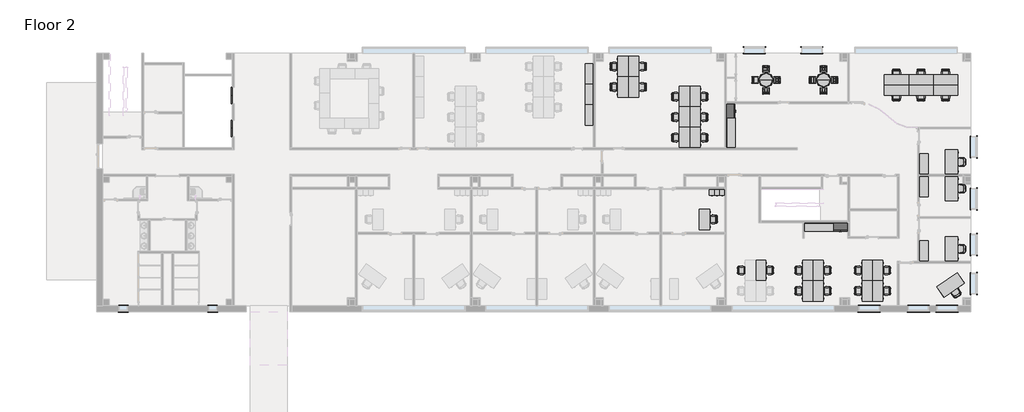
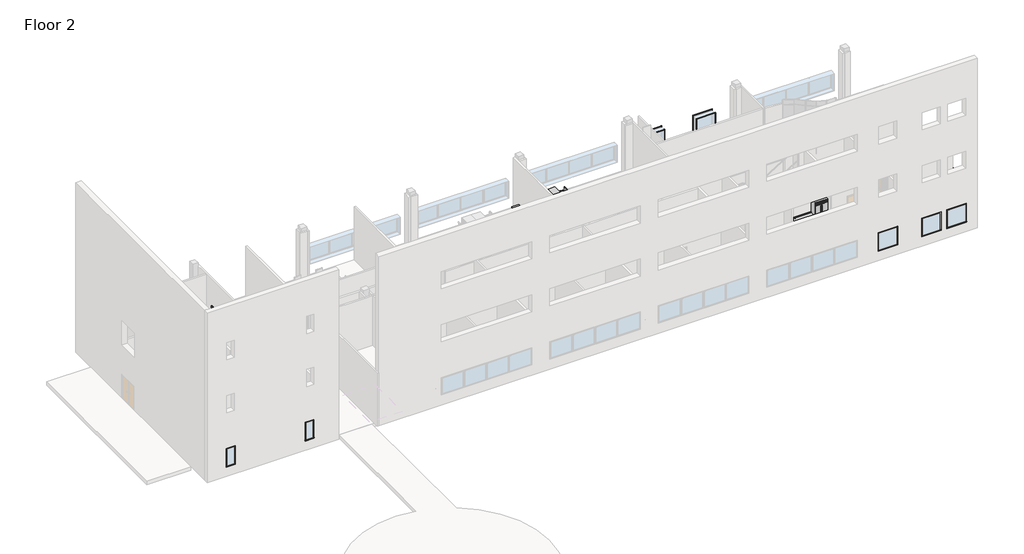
# One storey, part 7 of 7: 86 furniture elements, 26 proxies.
"""IFC4 building model written with IfcOpenShell, lengths in millimetres."""

from ifc_helpers import new_model, si_unit, origin, place, context, project, spatial, transform, mapped, element, save
from components import proxy_ae548678, proxy_0447ab4b, trim_window_exterior_flat_with_sill_05ca63db, trim_window_exterior_flat_with_sill_4912eb0d, trim_window_interior_flat_picture_frame_a1a3bc7c, trim_window_interior_flat_picture_frame_978fd00d, furniture_338da5bd, furniture_48aa8ab9, chair_executive_chair_executive_8d69e98c, chair_executive_chair_executive_a5be4872, chair_stacking_chair_stacking_4df0970f, chair_task_arms_chair_task_arms_fa5a08ef, chair_task_arms_chair_task_arms_3c69ee15, furniture_b725675f, furniture_6bf0da8d, furniture_0f0bb7e9, furniture_a9e97cbc, furniture_f1eb905c, furniture_e30ff25b, furniture_33f25304, furniture_65204735, furniture_a5b052b6, furniture_457a56de, furniture_77f0a01d

model = new_model("IFC4")

# Units and contexts
model_context = context("Model", 3, world=origin())
ifc_project = project(units=[si_unit("LENGTHUNIT", "METRE", prefix="MILLI")], contexts=[model_context])

# Site, building, storey
site = spatial("IfcSite", under=ifc_project)
building = spatial("IfcBuilding", under=site)
storey = spatial("IfcBuildingStorey", under=building, Name="Floor 2", Elevation=5486.4)

# Proxies
placement = place(None, origin())
proxy_shape = proxy_ae548678(model_context)
element("IfcBuildingElementProxy", 1, Name="Elevator-Center : 72\" x 114\" Hospital min.", ObjectType="Elevator-Center : 72\" x 114\" Hospital min.", at=placement, inside=storey, context=model_context, shape_type="MappedRepresentation", body=[
    mapped(proxy_shape, transform((6707.2192024, 51882.5975333, 5486.4), x_axis=(0.0, 1.0, 0.0), y_axis=(-1.0, 0.0, 0.0), z_axis=(0.0, 0.0, 1.0))),
])
element("IfcBuildingElementProxy", 2, Name="Elevator-Center : 72\" x 114\" Hospital min.", ObjectType="Elevator-Center : 72\" x 114\" Hospital min.", at=placement, inside=storey, context=model_context, shape_type="MappedRepresentation", body=[
    mapped(proxy_shape, transform((6707.2192024, 54320.9975333, 5486.4), x_axis=(0.0, 1.0, 0.0), y_axis=(-1.0, 0.0, 0.0), z_axis=(0.0, 0.0, 1.0))),
])
proxy_2_shape = proxy_0447ab4b(model_context)
element("IfcBuildingElementProxy", 3, Name="Refrigerator-Side-by-Side : 42\" Left Side Freezer", ObjectType="Refrigerator-Side-by-Side : 42\" Left Side Freezer", at=placement, inside=storey, context=model_context, shape_type="MappedRepresentation", body=[
    mapped(proxy_2_shape, transform((51838.2567024, 44868.311889, 5486.4), x_axis=(1.0, 0.0, 0.0), y_axis=(0.0, 1.0, 0.0), z_axis=(0.0, 0.0, 1.0))),
])
element("IfcBuildingElementProxy", 4, Name="Refrigerator-Side-by-Side : 42\" Left Side Freezer", ObjectType="Refrigerator-Side-by-Side : 42\" Left Side Freezer", at=placement, inside=storey, context=model_context, shape_type="MappedRepresentation", body=[
    mapped(proxy_2_shape, transform((43251.4692024, 53086.799389, 5486.4), x_axis=(0.0, 1.0, 0.0), y_axis=(-1.0, 0.0, 0.0), z_axis=(0.0, 0.0, 1.0))),
])
trim_window_exterior_flat_with_sill_shape = trim_window_exterior_flat_with_sill_05ca63db(model_context)
element("IfcBuildingElementProxy", 5, Name="Trim-Window-Exterior-Flat : with Sill", ObjectType="Trim-Window-Exterior-Flat : with Sill", at=placement, inside=storey, context=model_context, shape_type="MappedRepresentation", body=[
    mapped(trim_window_exterior_flat_with_sill_shape, transform((61956.9817024, 46544.711889, 7924.8), x_axis=(0.0, 1.0, 0.0), y_axis=(0.0, 0.0, 1.0), z_axis=(1.0, 0.0, 0.0))),
])
element("IfcBuildingElementProxy", 6, Name="Trim-Window-Exterior-Flat : with Sill", ObjectType="Trim-Window-Exterior-Flat : with Sill", at=placement, inside=storey, context=model_context, shape_type="MappedRepresentation", body=[
    mapped(trim_window_exterior_flat_with_sill_shape, transform((61956.9817024, 43141.111889, 7924.8), x_axis=(0.0, 1.0, 0.0), y_axis=(0.0, 0.0, 1.0), z_axis=(1.0, 0.0, 0.0))),
])
element("IfcBuildingElementProxy", 7, Name="Trim-Window-Exterior-Flat : with Sill", ObjectType="Trim-Window-Exterior-Flat : with Sill", at=placement, inside=storey, context=model_context, shape_type="MappedRepresentation", body=[
    mapped(trim_window_exterior_flat_with_sill_shape, transform((61956.9817024, 40245.511889, 7924.8), x_axis=(0.0, 1.0, 0.0), y_axis=(0.0, 0.0, 1.0), z_axis=(1.0, 0.0, 0.0))),
])
element("IfcBuildingElementProxy", 8, Name="Trim-Window-Exterior-Flat : with Sill", ObjectType="Trim-Window-Exterior-Flat : with Sill", at=placement, inside=storey, context=model_context, shape_type="MappedRepresentation", body=[
    mapped(trim_window_exterior_flat_with_sill_shape, transform((61956.9817024, 50405.511889, 7924.8), x_axis=(0.0, 1.0, 0.0), y_axis=(0.0, 0.0, 1.0), z_axis=(1.0, 0.0, 0.0))),
])
element("IfcBuildingElementProxy", 9, Name="Trim-Window-Exterior-Flat : with Sill", ObjectType="Trim-Window-Exterior-Flat : with Sill", at=placement, inside=storey, context=model_context, shape_type="MappedRepresentation", body=[
    mapped(trim_window_exterior_flat_with_sill_shape, transform((59742.4192024, 38164.299389, 7924.8), x_axis=(1.0, 0.0, 0.0), y_axis=(0.0, 0.0, 1.0), z_axis=(0.0, -1.0, 0.0))),
])
element("IfcBuildingElementProxy", 10, Name="Trim-Window-Exterior-Flat : with Sill", ObjectType="Trim-Window-Exterior-Flat : with Sill", at=placement, inside=storey, context=model_context, shape_type="MappedRepresentation", body=[
    mapped(trim_window_exterior_flat_with_sill_shape, transform((57608.8192024, 38164.299389, 7924.8), x_axis=(1.0, 0.0, 0.0), y_axis=(0.0, 0.0, 1.0), z_axis=(0.0, -1.0, 0.0))),
])
element("IfcBuildingElementProxy", 11, Name="Trim-Window-Exterior-Flat : with Sill", ObjectType="Trim-Window-Exterior-Flat : with Sill", at=placement, inside=storey, context=model_context, shape_type="MappedRepresentation", body=[
    mapped(trim_window_exterior_flat_with_sill_shape, transform((53951.2192024, 38164.299389, 7924.8), x_axis=(1.0, 0.0, 0.0), y_axis=(0.0, 0.0, 1.0), z_axis=(0.0, -1.0, 0.0))),
])
element("IfcBuildingElementProxy", 12, Name="Trim-Window-Exterior-Flat : with Sill", ObjectType="Trim-Window-Exterior-Flat : with Sill", at=placement, inside=storey, context=model_context, shape_type="MappedRepresentation", body=[
    mapped(trim_window_exterior_flat_with_sill_shape, transform((45423.1692024, 57820.724389, 7924.8), x_axis=(-1.0, 0.0, 0.0), y_axis=(0.0, 0.0, 1.0), z_axis=(0.0, 1.0, 0.0))),
])
element("IfcBuildingElementProxy", 13, Name="Trim-Window-Exterior-Flat : with Sill", ObjectType="Trim-Window-Exterior-Flat : with Sill", at=placement, inside=storey, context=model_context, shape_type="MappedRepresentation", body=[
    mapped(trim_window_exterior_flat_with_sill_shape, transform((49690.3692024, 57820.724389, 7924.8), x_axis=(-1.0, 0.0, 0.0), y_axis=(0.0, 0.0, 1.0), z_axis=(0.0, 1.0, 0.0))),
])
trim_window_exterior_flat_with_sill_2_shape = trim_window_exterior_flat_with_sill_4912eb0d(model_context)
element("IfcBuildingElementProxy", 14, Name="Trim-Window-Exterior-Flat : with Sill", ObjectType="Trim-Window-Exterior-Flat : with Sill", at=placement, inside=storey, context=model_context, shape_type="MappedRepresentation", body=[
    mapped(trim_window_exterior_flat_with_sill_2_shape, transform((-1446.1807976, 38164.299389, 7924.8), x_axis=(1.0, 0.0, 0.0), y_axis=(0.0, 0.0, 1.0), z_axis=(0.0, -1.0, 0.0))),
])
element("IfcBuildingElementProxy", 15, Name="Trim-Window-Exterior-Flat : with Sill", ObjectType="Trim-Window-Exterior-Flat : with Sill", at=placement, inside=storey, context=model_context, shape_type="MappedRepresentation", body=[
    mapped(trim_window_exterior_flat_with_sill_2_shape, transform((5189.5692024, 38164.299389, 7924.8), x_axis=(1.0, 0.0, 0.0), y_axis=(0.0, 0.0, 1.0), z_axis=(0.0, -1.0, 0.0))),
])
trim_window_interior_flat_picture_frame_shape = trim_window_interior_flat_picture_frame_a1a3bc7c(model_context)
element("IfcBuildingElementProxy", 16, Name="Trim-Window-Interior-Flat : Picture Frame", ObjectType="Trim-Window-Interior-Flat : Picture Frame", at=placement, inside=storey, context=model_context, shape_type="MappedRepresentation", body=[
    mapped(trim_window_interior_flat_picture_frame_shape, transform((61502.9567024, 46544.711889, 7924.8), x_axis=(0.0, -1.0, 0.0), y_axis=(0.0, 0.0, 1.0), z_axis=(-1.0, 0.0, 0.0))),
])
element("IfcBuildingElementProxy", 17, Name="Trim-Window-Interior-Flat : Picture Frame", ObjectType="Trim-Window-Interior-Flat : Picture Frame", at=placement, inside=storey, context=model_context, shape_type="MappedRepresentation", body=[
    mapped(trim_window_interior_flat_picture_frame_shape, transform((61502.9567024, 43141.111889, 7924.8), x_axis=(0.0, -1.0, 0.0), y_axis=(0.0, 0.0, 1.0), z_axis=(-1.0, 0.0, 0.0))),
])
element("IfcBuildingElementProxy", 18, Name="Trim-Window-Interior-Flat : Picture Frame", ObjectType="Trim-Window-Interior-Flat : Picture Frame", at=placement, inside=storey, context=model_context, shape_type="MappedRepresentation", body=[
    mapped(trim_window_interior_flat_picture_frame_shape, transform((61502.9567024, 40245.511889, 7924.8), x_axis=(0.0, -1.0, 0.0), y_axis=(0.0, 0.0, 1.0), z_axis=(-1.0, 0.0, 0.0))),
])
element("IfcBuildingElementProxy", 19, Name="Trim-Window-Interior-Flat : Picture Frame", ObjectType="Trim-Window-Interior-Flat : Picture Frame", at=placement, inside=storey, context=model_context, shape_type="MappedRepresentation", body=[
    mapped(trim_window_interior_flat_picture_frame_shape, transform((61502.9567024, 50405.511889, 7924.8), x_axis=(0.0, -1.0, 0.0), y_axis=(0.0, 0.0, 1.0), z_axis=(-1.0, 0.0, 0.0))),
])
element("IfcBuildingElementProxy", 20, Name="Trim-Window-Interior-Flat : Picture Frame", ObjectType="Trim-Window-Interior-Flat : Picture Frame", at=placement, inside=storey, context=model_context, shape_type="MappedRepresentation", body=[
    mapped(trim_window_interior_flat_picture_frame_shape, transform((59742.4192024, 38618.324389, 7924.8), x_axis=(-1.0, 0.0, 0.0), y_axis=(0.0, 0.0, 1.0), z_axis=(0.0, 1.0, 0.0))),
])
element("IfcBuildingElementProxy", 21, Name="Trim-Window-Interior-Flat : Picture Frame", ObjectType="Trim-Window-Interior-Flat : Picture Frame", at=placement, inside=storey, context=model_context, shape_type="MappedRepresentation", body=[
    mapped(trim_window_interior_flat_picture_frame_shape, transform((57608.8192024, 38618.324389, 7924.8), x_axis=(-1.0, 0.0, 0.0), y_axis=(0.0, 0.0, 1.0), z_axis=(0.0, 1.0, 0.0))),
])
element("IfcBuildingElementProxy", 22, Name="Trim-Window-Interior-Flat : Picture Frame", ObjectType="Trim-Window-Interior-Flat : Picture Frame", at=placement, inside=storey, context=model_context, shape_type="MappedRepresentation", body=[
    mapped(trim_window_interior_flat_picture_frame_shape, transform((53951.2192024, 38618.324389, 7924.8), x_axis=(-1.0, 0.0, 0.0), y_axis=(0.0, 0.0, 1.0), z_axis=(0.0, 1.0, 0.0))),
])
element("IfcBuildingElementProxy", 23, Name="Trim-Window-Interior-Flat : Picture Frame", ObjectType="Trim-Window-Interior-Flat : Picture Frame", at=placement, inside=storey, context=model_context, shape_type="MappedRepresentation", body=[
    mapped(trim_window_interior_flat_picture_frame_shape, transform((45423.1692024, 57366.699389, 7924.8), x_axis=(1.0, 0.0, 0.0), y_axis=(0.0, 0.0, 1.0), z_axis=(0.0, -1.0, 0.0))),
])
element("IfcBuildingElementProxy", 24, Name="Trim-Window-Interior-Flat : Picture Frame", ObjectType="Trim-Window-Interior-Flat : Picture Frame", at=placement, inside=storey, context=model_context, shape_type="MappedRepresentation", body=[
    mapped(trim_window_interior_flat_picture_frame_shape, transform((49690.3692024, 57366.699389, 7924.8), x_axis=(1.0, 0.0, 0.0), y_axis=(0.0, 0.0, 1.0), z_axis=(0.0, -1.0, 0.0))),
])
trim_window_interior_flat_picture_frame_2_shape = trim_window_interior_flat_picture_frame_978fd00d(model_context)
element("IfcBuildingElementProxy", 25, Name="Trim-Window-Interior-Flat : Picture Frame", ObjectType="Trim-Window-Interior-Flat : Picture Frame", at=placement, inside=storey, context=model_context, shape_type="MappedRepresentation", body=[
    mapped(trim_window_interior_flat_picture_frame_2_shape, transform((-1446.1807976, 38618.324389, 7924.8), x_axis=(-1.0, 0.0, 0.0), y_axis=(0.0, 0.0, 1.0), z_axis=(0.0, 1.0, 0.0))),
])
element("IfcBuildingElementProxy", 26, Name="Trim-Window-Interior-Flat : Picture Frame", ObjectType="Trim-Window-Interior-Flat : Picture Frame", at=placement, inside=storey, context=model_context, shape_type="MappedRepresentation", body=[
    mapped(trim_window_interior_flat_picture_frame_2_shape, transform((5189.5692024, 38618.324389, 7924.8), x_axis=(-1.0, 0.0, 0.0), y_axis=(0.0, 0.0, 1.0), z_axis=(0.0, 1.0, 0.0))),
])

# Furniture
furniture_shape = furniture_338da5bd(model_context)
element("IfcFurniture", 27, ObjectType="Base Cabinet-Double Door & 2 Drawer : 30\"", at=placement, inside=storey, context=model_context, shape_type="MappedRepresentation", body=[
    mapped(furniture_shape, transform((49498.5939974, 44766.711889, 5486.4), x_axis=(1.0, 0.0, 0.0), y_axis=(0.0, 1.0, 0.0), z_axis=(0.0, 0.0, 1.0))),
])
element("IfcFurniture", 28, ObjectType="Base Cabinet-Double Door & 2 Drawer : 30\"", at=placement, inside=storey, context=model_context, shape_type="MappedRepresentation", body=[
    mapped(furniture_shape, transform((50260.5939974, 44766.711889, 5486.4), x_axis=(1.0, 0.0, 0.0), y_axis=(0.0, 1.0, 0.0), z_axis=(0.0, 0.0, 1.0))),
])
element("IfcFurniture", 29, ObjectType="Base Cabinet-Double Door & 2 Drawer : 30\"", at=placement, inside=storey, context=model_context, shape_type="MappedRepresentation", body=[
    mapped(furniture_shape, transform((43353.0692024, 50691.5741841, 5486.4), x_axis=(0.0, 1.0, 0.0), y_axis=(-1.0, 0.0, 0.0), z_axis=(0.0, 0.0, 1.0))),
])
element("IfcFurniture", 30, ObjectType="Base Cabinet-Double Door & 2 Drawer : 30\"", at=placement, inside=storey, context=model_context, shape_type="MappedRepresentation", body=[
    mapped(furniture_shape, transform((43353.0692024, 51453.5741841, 5486.4), x_axis=(0.0, 1.0, 0.0), y_axis=(-1.0, 0.0, 0.0), z_axis=(0.0, 0.0, 1.0))),
])
furniture_2_shape = furniture_48aa8ab9(model_context)
element("IfcFurniture", 31, ObjectType="Cabinet-File 3 Drawer : 15\" x 18\"", at=placement, inside=storey, context=model_context, shape_type="MappedRepresentation", body=[
    mapped(furniture_2_shape, transform((42910.8477553, 47175.7961891, 5486.4), x_axis=(-1.0, 0.0, 0.0), y_axis=(0.0, -1.0, 0.0), z_axis=(0.0, 0.0, 1.0))),
])
element("IfcFurniture", 32, ObjectType="Cabinet-File 3 Drawer : 15\" x 18\"", at=placement, inside=storey, context=model_context, shape_type="MappedRepresentation", body=[
    mapped(furniture_2_shape, transform((42529.8477553, 47175.7961891, 5486.4), x_axis=(-1.0, 0.0, 0.0), y_axis=(0.0, -1.0, 0.0), z_axis=(0.0, 0.0, 1.0))),
])
element("IfcFurniture", 33, ObjectType="Cabinet-File 3 Drawer : 15\" x 18\"", at=placement, inside=storey, context=model_context, shape_type="MappedRepresentation", body=[
    mapped(furniture_2_shape, transform((42148.8477553, 47175.7961891, 5486.4), x_axis=(-1.0, 0.0, 0.0), y_axis=(0.0, -1.0, 0.0), z_axis=(0.0, 0.0, 1.0))),
])
chair_executive_chair_executive_shape = chair_executive_chair_executive_8d69e98c(model_context)
element("IfcFurniture", 34, ObjectType="Chair-Executive : Chair-Executive", at=placement, inside=storey, context=model_context, shape_type="MappedRepresentation", body=[
    mapped(chair_executive_chair_executive_shape, transform((60783.2356072, 47167.3085693, 5486.4), x_axis=(0.0, 1.0, 0.0), y_axis=(-1.0, 0.0, 0.0), z_axis=(0.0, 0.0, 1.0))),
])
chair_executive_chair_executive_2_shape = chair_executive_chair_executive_a5be4872(model_context)
element("IfcFurniture", 35, ObjectType="Chair-Executive : Chair-Executive", at=placement, inside=storey, context=model_context, shape_type="MappedRepresentation", body=[
    mapped(chair_executive_chair_executive_2_shape, transform((60510.0435605, 39658.0167973, 5486.4), x_axis=(-0.819152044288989, -0.57357643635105, 0.0), y_axis=(0.57357643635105, -0.819152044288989, 0.0), z_axis=(0.0, 0.0, 1.0))),
])
element("IfcFurniture", 36, ObjectType="Chair-Executive : Chair-Executive", at=placement, inside=storey, context=model_context, shape_type="MappedRepresentation", body=[
    mapped(chair_executive_chair_executive_2_shape, transform((60783.2356072, 42969.3652087, 5486.4), x_axis=(0.0, -1.0, 0.0), y_axis=(1.0, 0.0, 0.0), z_axis=(0.0, 0.0, 1.0))),
])
element("IfcFurniture", 37, ObjectType="Chair-Executive : Chair-Executive", at=placement, inside=storey, context=model_context, shape_type="MappedRepresentation", body=[
    mapped(chair_executive_chair_executive_2_shape, transform((60783.2356072, 49427.3152087, 5486.4), x_axis=(0.0, -1.0, 0.0), y_axis=(1.0, 0.0, 0.0), z_axis=(0.0, 0.0, 1.0))),
])
chair_stacking_chair_stacking_shape = chair_stacking_chair_stacking_4df0970f(model_context)
element("IfcFurniture", 38, ObjectType="Chair-Stacking : Chair-Stacking", at=placement, inside=storey, context=model_context, shape_type="MappedRepresentation", body=[
    mapped(chair_stacking_chair_stacking_shape, transform((50739.3683827, 54457.5746587, 5486.4), x_axis=(1.0, 0.0, 0.0), y_axis=(0.0, 1.0, 0.0), z_axis=(0.0, 0.0, 1.0))),
])
element("IfcFurniture", 39, ObjectType="Chair-Stacking : Chair-Stacking", at=placement, inside=storey, context=model_context, shape_type="MappedRepresentation", body=[
    mapped(chair_stacking_chair_stacking_shape, transform((51482.0706259, 55558.3752626, 5486.4), x_axis=(0.0, 1.0, 0.0), y_axis=(-1.0, 0.0, 0.0), z_axis=(0.0, 0.0, 1.0))),
])
element("IfcFurniture", 40, ObjectType="Chair-Stacking : Chair-Stacking", at=placement, inside=storey, context=model_context, shape_type="MappedRepresentation", body=[
    mapped(chair_stacking_chair_stacking_shape, transform((50381.270022, 56301.0775058, 5486.4), x_axis=(-1.0, 0.0, 0.0), y_axis=(0.0, -1.0, 0.0), z_axis=(0.0, 0.0, 1.0))),
])
element("IfcFurniture", 41, ObjectType="Chair-Stacking : Chair-Stacking", at=placement, inside=storey, context=model_context, shape_type="MappedRepresentation", body=[
    mapped(chair_stacking_chair_stacking_shape, transform((49638.5677788, 55200.276902, 5486.4), x_axis=(0.0, -1.0, 0.0), y_axis=(1.0, 0.0, 0.0), z_axis=(0.0, 0.0, 1.0))),
])
element("IfcFurniture", 42, ObjectType="Chair-Stacking : Chair-Stacking", at=placement, inside=storey, context=model_context, shape_type="MappedRepresentation", body=[
    mapped(chair_stacking_chair_stacking_shape, transform((46472.1683827, 54457.5746587, 5486.4), x_axis=(1.0, 0.0, 0.0), y_axis=(0.0, 1.0, 0.0), z_axis=(0.0, 0.0, 1.0))),
])
element("IfcFurniture", 43, ObjectType="Chair-Stacking : Chair-Stacking", at=placement, inside=storey, context=model_context, shape_type="MappedRepresentation", body=[
    mapped(chair_stacking_chair_stacking_shape, transform((47214.8706259, 55558.3752626, 5486.4), x_axis=(0.0, 1.0, 0.0), y_axis=(-1.0, 0.0, 0.0), z_axis=(0.0, 0.0, 1.0))),
])
element("IfcFurniture", 44, ObjectType="Chair-Stacking : Chair-Stacking", at=placement, inside=storey, context=model_context, shape_type="MappedRepresentation", body=[
    mapped(chair_stacking_chair_stacking_shape, transform((46114.070022, 56301.0775058, 5486.4), x_axis=(-1.0, 0.0, 0.0), y_axis=(0.0, -1.0, 0.0), z_axis=(0.0, 0.0, 1.0))),
])
element("IfcFurniture", 45, ObjectType="Chair-Stacking : Chair-Stacking", at=placement, inside=storey, context=model_context, shape_type="MappedRepresentation", body=[
    mapped(chair_stacking_chair_stacking_shape, transform((45371.3677788, 55200.276902, 5486.4), x_axis=(0.0, -1.0, 0.0), y_axis=(1.0, 0.0, 0.0), z_axis=(0.0, 0.0, 1.0))),
])
chair_task_arms_chair_task_arms_shape = chair_task_arms_chair_task_arms_fa5a08ef(model_context)
element("IfcFurniture", 46, ObjectType="Chair-Task Arms : Chair-Task Arms", at=placement, inside=storey, context=model_context, shape_type="MappedRepresentation", body=[
    mapped(chair_task_arms_chair_task_arms_shape, transform((41712.8009489, 50950.3210693, 5486.4), x_axis=(0.0, 1.0, 0.0), y_axis=(-1.0, 0.0, 0.0), z_axis=(0.0, 0.0, 1.0))),
])
element("IfcFurniture", 47, ObjectType="Chair-Task Arms : Chair-Task Arms", at=placement, inside=storey, context=model_context, shape_type="MappedRepresentation", body=[
    mapped(chair_task_arms_chair_task_arms_shape, transform((37134.7797162, 56233.5210693, 5486.4), x_axis=(0.0, 1.0, 0.0), y_axis=(-1.0, 0.0, 0.0), z_axis=(0.0, 0.0, 1.0))),
])
element("IfcFurniture", 48, ObjectType="Chair-Task Arms : Chair-Task Arms", at=placement, inside=storey, context=model_context, shape_type="MappedRepresentation", body=[
    mapped(chair_task_arms_chair_task_arms_shape, transform((37134.7797162, 54709.5210693, 5486.4), x_axis=(0.0, 1.0, 0.0), y_axis=(-1.0, 0.0, 0.0), z_axis=(0.0, 0.0, 1.0))),
])
element("IfcFurniture", 49, ObjectType="Chair-Task Arms : Chair-Task Arms", at=placement, inside=storey, context=model_context, shape_type="MappedRepresentation", body=[
    mapped(chair_task_arms_chair_task_arms_shape, transform((41712.8009489, 52474.3210693, 5486.4), x_axis=(0.0, 1.0, 0.0), y_axis=(-1.0, 0.0, 0.0), z_axis=(0.0, 0.0, 1.0))),
])
element("IfcFurniture", 50, ObjectType="Chair-Task Arms : Chair-Task Arms", at=placement, inside=storey, context=model_context, shape_type="MappedRepresentation", body=[
    mapped(chair_task_arms_chair_task_arms_shape, transform((41712.8009489, 53998.3210693, 5486.4), x_axis=(0.0, 1.0, 0.0), y_axis=(-1.0, 0.0, 0.0), z_axis=(0.0, 0.0, 1.0))),
])
element("IfcFurniture", 51, ObjectType="Chair-Task Arms : Chair-Task Arms", at=placement, inside=storey, context=model_context, shape_type="MappedRepresentation", body=[
    mapped(chair_task_arms_chair_task_arms_shape, transform((57656.4910544, 54082.2962791, 5486.4), x_axis=(1.0, 0.0, 0.0), y_axis=(0.0, 1.0, 0.0), z_axis=(0.0, 0.0, 1.0))),
])
element("IfcFurniture", 52, ObjectType="Chair-Task Arms : Chair-Task Arms", at=placement, inside=storey, context=model_context, shape_type="MappedRepresentation", body=[
    mapped(chair_task_arms_chair_task_arms_shape, transform((59485.2910544, 54082.2962791, 5486.4), x_axis=(1.0, 0.0, 0.0), y_axis=(0.0, 1.0, 0.0), z_axis=(0.0, 0.0, 1.0))),
])
element("IfcFurniture", 53, ObjectType="Chair-Task Arms : Chair-Task Arms", at=placement, inside=storey, context=model_context, shape_type="MappedRepresentation", body=[
    mapped(chair_task_arms_chair_task_arms_shape, transform((55827.6910544, 54082.2962791, 5486.4), x_axis=(1.0, 0.0, 0.0), y_axis=(0.0, 1.0, 0.0), z_axis=(0.0, 0.0, 1.0))),
])
element("IfcFurniture", 54, ObjectType="Chair-Task Arms : Chair-Task Arms", at=placement, inside=storey, context=model_context, shape_type="MappedRepresentation", body=[
    mapped(chair_task_arms_chair_task_arms_shape, transform((46597.1240822, 41090.6046547, 5486.4), x_axis=(0.0, 1.0, 0.0), y_axis=(-1.0, 0.0, 0.0), z_axis=(0.0, 0.0, 1.0))),
])
element("IfcFurniture", 55, ObjectType="Chair-Task Arms : Chair-Task Arms", at=placement, inside=storey, context=model_context, shape_type="MappedRepresentation", body=[
    mapped(chair_task_arms_chair_task_arms_shape, transform((55283.9240822, 41090.6046547, 5486.4), x_axis=(0.0, 1.0, 0.0), y_axis=(-1.0, 0.0, 0.0), z_axis=(0.0, 0.0, 1.0))),
])
element("IfcFurniture", 56, ObjectType="Chair-Task Arms : Chair-Task Arms", at=placement, inside=storey, context=model_context, shape_type="MappedRepresentation", body=[
    mapped(chair_task_arms_chair_task_arms_shape, transform((55283.9240822, 39566.6046547, 5486.4), x_axis=(0.0, 1.0, 0.0), y_axis=(-1.0, 0.0, 0.0), z_axis=(0.0, 0.0, 1.0))),
])
element("IfcFurniture", 57, ObjectType="Chair-Task Arms : Chair-Task Arms", at=placement, inside=storey, context=model_context, shape_type="MappedRepresentation", body=[
    mapped(chair_task_arms_chair_task_arms_shape, transform((50864.3240822, 41090.6046547, 5486.4), x_axis=(0.0, 1.0, 0.0), y_axis=(-1.0, 0.0, 0.0), z_axis=(0.0, 0.0, 1.0))),
])
element("IfcFurniture", 58, ObjectType="Chair-Task Arms : Chair-Task Arms", at=placement, inside=storey, context=model_context, shape_type="MappedRepresentation", body=[
    mapped(chair_task_arms_chair_task_arms_shape, transform((50864.3240822, 39566.6046547, 5486.4), x_axis=(0.0, 1.0, 0.0), y_axis=(-1.0, 0.0, 0.0), z_axis=(0.0, 0.0, 1.0))),
])
chair_task_arms_chair_task_arms_2_shape = chair_task_arms_chair_task_arms_3c69ee15(model_context)
element("IfcFurniture", 59, ObjectType="Chair-Task Arms : Chair-Task Arms", at=placement, inside=storey, context=model_context, shape_type="MappedRepresentation", body=[
    mapped(chair_task_arms_chair_task_arms_2_shape, transform((42416.340104, 45161.7027087, 5486.4), x_axis=(0.0, -1.0, 0.0), y_axis=(1.0, 0.0, 0.0), z_axis=(0.0, 0.0, 1.0))),
])
element("IfcFurniture", 60, ObjectType="Chair-Task Arms : Chair-Task Arms", at=placement, inside=storey, context=model_context, shape_type="MappedRepresentation", body=[
    mapped(chair_task_arms_chair_task_arms_2_shape, transform((39541.3091456, 50950.3210693, 5486.4), x_axis=(0.0, 1.0, 0.0), y_axis=(-1.0, 0.0, 0.0), z_axis=(0.0, 0.0, 1.0))),
])
element("IfcFurniture", 61, ObjectType="Chair-Task Arms : Chair-Task Arms", at=placement, inside=storey, context=model_context, shape_type="MappedRepresentation", body=[
    mapped(chair_task_arms_chair_task_arms_2_shape, transform((34963.2879129, 56233.5210693, 5486.4), x_axis=(0.0, 1.0, 0.0), y_axis=(-1.0, 0.0, 0.0), z_axis=(0.0, 0.0, 1.0))),
])
element("IfcFurniture", 62, ObjectType="Chair-Task Arms : Chair-Task Arms", at=placement, inside=storey, context=model_context, shape_type="MappedRepresentation", body=[
    mapped(chair_task_arms_chair_task_arms_2_shape, transform((34963.2879129, 54709.5210693, 5486.4), x_axis=(0.0, 1.0, 0.0), y_axis=(-1.0, 0.0, 0.0), z_axis=(0.0, 0.0, 1.0))),
])
element("IfcFurniture", 63, ObjectType="Chair-Task Arms : Chair-Task Arms", at=placement, inside=storey, context=model_context, shape_type="MappedRepresentation", body=[
    mapped(chair_task_arms_chair_task_arms_2_shape, transform((39541.3091456, 52474.3210693, 5486.4), x_axis=(0.0, 1.0, 0.0), y_axis=(-1.0, 0.0, 0.0), z_axis=(0.0, 0.0, 1.0))),
])
element("IfcFurniture", 64, ObjectType="Chair-Task Arms : Chair-Task Arms", at=placement, inside=storey, context=model_context, shape_type="MappedRepresentation", body=[
    mapped(chair_task_arms_chair_task_arms_2_shape, transform((39541.3091456, 53998.3210693, 5486.4), x_axis=(0.0, 1.0, 0.0), y_axis=(-1.0, 0.0, 0.0), z_axis=(0.0, 0.0, 1.0))),
])
element("IfcFurniture", 65, ObjectType="Chair-Task Arms : Chair-Task Arms", at=placement, inside=storey, context=model_context, shape_type="MappedRepresentation", body=[
    mapped(chair_task_arms_chair_task_arms_2_shape, transform((57656.4910544, 55914.3558855, 5486.4), x_axis=(1.0, 0.0, 0.0), y_axis=(0.0, 1.0, 0.0), z_axis=(0.0, 0.0, 1.0))),
])
element("IfcFurniture", 66, ObjectType="Chair-Task Arms : Chair-Task Arms", at=placement, inside=storey, context=model_context, shape_type="MappedRepresentation", body=[
    mapped(chair_task_arms_chair_task_arms_2_shape, transform((59485.2910544, 55914.3558855, 5486.4), x_axis=(1.0, 0.0, 0.0), y_axis=(0.0, 1.0, 0.0), z_axis=(0.0, 0.0, 1.0))),
])
element("IfcFurniture", 67, ObjectType="Chair-Task Arms : Chair-Task Arms", at=placement, inside=storey, context=model_context, shape_type="MappedRepresentation", body=[
    mapped(chair_task_arms_chair_task_arms_2_shape, transform((55827.6910544, 55914.3558855, 5486.4), x_axis=(1.0, 0.0, 0.0), y_axis=(0.0, 1.0, 0.0), z_axis=(0.0, 0.0, 1.0))),
])
element("IfcFurniture", 68, ObjectType="Chair-Task Arms : Chair-Task Arms", at=placement, inside=storey, context=model_context, shape_type="MappedRepresentation", body=[
    mapped(chair_task_arms_chair_task_arms_2_shape, transform((44425.6322789, 41090.6046547, 5486.4), x_axis=(0.0, 1.0, 0.0), y_axis=(-1.0, 0.0, 0.0), z_axis=(0.0, 0.0, 1.0))),
])
element("IfcFurniture", 69, ObjectType="Chair-Task Arms : Chair-Task Arms", at=placement, inside=storey, context=model_context, shape_type="MappedRepresentation", body=[
    mapped(chair_task_arms_chair_task_arms_2_shape, transform((53112.4322789, 41090.6046547, 5486.4), x_axis=(0.0, 1.0, 0.0), y_axis=(-1.0, 0.0, 0.0), z_axis=(0.0, 0.0, 1.0))),
])
element("IfcFurniture", 70, ObjectType="Chair-Task Arms : Chair-Task Arms", at=placement, inside=storey, context=model_context, shape_type="MappedRepresentation", body=[
    mapped(chair_task_arms_chair_task_arms_2_shape, transform((53112.4322789, 39566.6046547, 5486.4), x_axis=(0.0, 1.0, 0.0), y_axis=(-1.0, 0.0, 0.0), z_axis=(0.0, 0.0, 1.0))),
])
element("IfcFurniture", 71, ObjectType="Chair-Task Arms : Chair-Task Arms", at=placement, inside=storey, context=model_context, shape_type="MappedRepresentation", body=[
    mapped(chair_task_arms_chair_task_arms_2_shape, transform((48692.8322789, 41090.6046547, 5486.4), x_axis=(0.0, 1.0, 0.0), y_axis=(-1.0, 0.0, 0.0), z_axis=(0.0, 0.0, 1.0))),
])
element("IfcFurniture", 72, ObjectType="Chair-Task Arms : Chair-Task Arms", at=placement, inside=storey, context=model_context, shape_type="MappedRepresentation", body=[
    mapped(chair_task_arms_chair_task_arms_2_shape, transform((48692.8322789, 39566.6046547, 5486.4), x_axis=(0.0, 1.0, 0.0), y_axis=(-1.0, 0.0, 0.0), z_axis=(0.0, 0.0, 1.0))),
])
furniture_3_shape = furniture_b725675f(model_context)
element("IfcFurniture", 73, ObjectType="Counter Top : 24\" Depth", at=placement, inside=storey, context=model_context, shape_type="MappedRepresentation", body=[
    mapped(furniture_3_shape, transform((50336.7939974, 44766.711889, 5486.4), x_axis=(1.0, 0.0, 0.0), y_axis=(0.0, 1.0, 0.0), z_axis=(0.0, 0.0, 1.0))),
])
furniture_4_shape = furniture_6bf0da8d(model_context)
element("IfcFurniture", 74, ObjectType="Counter Top : 24\" Depth", at=placement, inside=storey, context=model_context, shape_type="MappedRepresentation", body=[
    mapped(furniture_4_shape, transform((43353.0692024, 51529.7741841, 5486.4), x_axis=(0.0, 1.0, 0.0), y_axis=(-1.0, 0.0, 0.0), z_axis=(0.0, 0.0, 1.0))),
])
furniture_5_shape = furniture_0f0bb7e9(model_context)
element("IfcFurniture", 75, ObjectType="Credenza : 60\" x 24\"", at=placement, inside=storey, context=model_context, shape_type="MappedRepresentation", body=[
    mapped(furniture_5_shape, transform((58024.5620302, 42616.4301267, 5486.4), x_axis=(0.0, 1.0, 0.0), y_axis=(-1.0, 0.0, 0.0), z_axis=(0.0, 0.0, 1.0))),
])
element("IfcFurniture", 76, ObjectType="Credenza : 60\" x 24\"", at=placement, inside=storey, context=model_context, shape_type="MappedRepresentation", body=[
    mapped(furniture_5_shape, transform((58024.5620302, 49074.3801267, 5486.4), x_axis=(0.0, 1.0, 0.0), y_axis=(-1.0, 0.0, 0.0), z_axis=(0.0, 0.0, 1.0))),
])
furniture_6_shape = furniture_a9e97cbc(model_context)
element("IfcFurniture", 77, ObjectType="Credenza : 60\" x 24\"", at=placement, inside=storey, context=model_context, shape_type="MappedRepresentation", body=[
    mapped(furniture_6_shape, transform((58024.5620302, 47520.2436513, 5486.4), x_axis=(0.0, -1.0, 0.0), y_axis=(1.0, 0.0, 0.0), z_axis=(0.0, 0.0, 1.0))),
])
element("IfcFurniture", 78, ObjectType="Credenza : 60\" x 24\"", at=placement, inside=storey, context=model_context, shape_type="MappedRepresentation", body=[
    mapped(furniture_6_shape, transform((33201.1888745, 52709.7551267, 5486.4), x_axis=(0.0, 1.0, 0.0), y_axis=(-1.0, 0.0, 0.0), z_axis=(0.0, 0.0, 1.0))),
])
element("IfcFurniture", 79, ObjectType="Credenza : 60\" x 24\"", at=placement, inside=storey, context=model_context, shape_type="MappedRepresentation", body=[
    mapped(furniture_6_shape, transform((33201.1888745, 54233.7551267, 5486.4), x_axis=(0.0, 1.0, 0.0), y_axis=(-1.0, 0.0, 0.0), z_axis=(0.0, 0.0, 1.0))),
])
element("IfcFurniture", 80, ObjectType="Credenza : 60\" x 24\"", at=placement, inside=storey, context=model_context, shape_type="MappedRepresentation", body=[
    mapped(furniture_6_shape, transform((33201.1888745, 55757.7551267, 5486.4), x_axis=(0.0, 1.0, 0.0), y_axis=(-1.0, 0.0, 0.0), z_axis=(0.0, 0.0, 1.0))),
])
furniture_7_shape = furniture_f1eb905c(model_context)
element("IfcFurniture", 81, ObjectType="Desk : 60\" x 30\"", at=placement, inside=storey, context=model_context, shape_type="MappedRepresentation", body=[
    mapped(furniture_7_shape, transform((41389.0550473, 50329.311889, 5486.4), x_axis=(0.0, 1.0, 0.0), y_axis=(-1.0, 0.0, 0.0), z_axis=(0.0, 0.0, 1.0))),
])
element("IfcFurniture", 82, ObjectType="Desk : 60\" x 30\"", at=placement, inside=storey, context=model_context, shape_type="MappedRepresentation", body=[
    mapped(furniture_7_shape, transform((36811.0338145, 55612.511889, 5486.4), x_axis=(0.0, 1.0, 0.0), y_axis=(-1.0, 0.0, 0.0), z_axis=(0.0, 0.0, 1.0))),
])
element("IfcFurniture", 83, ObjectType="Desk : 60\" x 30\"", at=placement, inside=storey, context=model_context, shape_type="MappedRepresentation", body=[
    mapped(furniture_7_shape, transform((36811.0338145, 54088.511889, 5486.4), x_axis=(0.0, 1.0, 0.0), y_axis=(-1.0, 0.0, 0.0), z_axis=(0.0, 0.0, 1.0))),
])
element("IfcFurniture", 84, ObjectType="Desk : 60\" x 30\"", at=placement, inside=storey, context=model_context, shape_type="MappedRepresentation", body=[
    mapped(furniture_7_shape, transform((41389.0550473, 51853.311889, 5486.4), x_axis=(0.0, 1.0, 0.0), y_axis=(-1.0, 0.0, 0.0), z_axis=(0.0, 0.0, 1.0))),
])
element("IfcFurniture", 85, ObjectType="Desk : 60\" x 30\"", at=placement, inside=storey, context=model_context, shape_type="MappedRepresentation", body=[
    mapped(furniture_7_shape, transform((41389.0550473, 53377.311889, 5486.4), x_axis=(0.0, 1.0, 0.0), y_axis=(-1.0, 0.0, 0.0), z_axis=(0.0, 0.0, 1.0))),
])
element("IfcFurniture", 86, ObjectType="Desk : 60\" x 30\"", at=placement, inside=storey, context=model_context, shape_type="MappedRepresentation", body=[
    mapped(furniture_7_shape, transform((46273.3781805, 40469.5954744, 5486.4), x_axis=(0.0, 1.0, 0.0), y_axis=(-1.0, 0.0, 0.0), z_axis=(0.0, 0.0, 1.0))),
])
element("IfcFurniture", 87, ObjectType="Desk : 60\" x 30\"", at=placement, inside=storey, context=model_context, shape_type="MappedRepresentation", body=[
    mapped(furniture_7_shape, transform((54960.1781805, 40469.5954744, 5486.4), x_axis=(0.0, 1.0, 0.0), y_axis=(-1.0, 0.0, 0.0), z_axis=(0.0, 0.0, 1.0))),
])
element("IfcFurniture", 88, ObjectType="Desk : 60\" x 30\"", at=placement, inside=storey, context=model_context, shape_type="MappedRepresentation", body=[
    mapped(furniture_7_shape, transform((54960.1781805, 38945.5954744, 5486.4), x_axis=(0.0, 1.0, 0.0), y_axis=(-1.0, 0.0, 0.0), z_axis=(0.0, 0.0, 1.0))),
])
element("IfcFurniture", 89, ObjectType="Desk : 60\" x 30\"", at=placement, inside=storey, context=model_context, shape_type="MappedRepresentation", body=[
    mapped(furniture_7_shape, transform((50540.5781805, 40469.5954744, 5486.4), x_axis=(0.0, 1.0, 0.0), y_axis=(-1.0, 0.0, 0.0), z_axis=(0.0, 0.0, 1.0))),
])
element("IfcFurniture", 90, ObjectType="Desk : 60\" x 30\"", at=placement, inside=storey, context=model_context, shape_type="MappedRepresentation", body=[
    mapped(furniture_7_shape, transform((50540.5781805, 38945.5954744, 5486.4), x_axis=(0.0, 1.0, 0.0), y_axis=(-1.0, 0.0, 0.0), z_axis=(0.0, 0.0, 1.0))),
])
furniture_8_shape = furniture_e30ff25b(model_context)
element("IfcFurniture", 91, ObjectType="Desk : 60\" x 30\"", at=placement, inside=storey, context=model_context, shape_type="MappedRepresentation", body=[
    mapped(furniture_8_shape, transform((42092.5942024, 45782.711889, 5486.4), x_axis=(0.0, -1.0, 0.0), y_axis=(1.0, 0.0, 0.0), z_axis=(0.0, 0.0, 1.0))),
])
element("IfcFurniture", 92, ObjectType="Desk : 60\" x 30\"", at=placement, inside=storey, context=model_context, shape_type="MappedRepresentation", body=[
    mapped(furniture_8_shape, transform((39865.0550473, 50329.311889, 5486.4), x_axis=(0.0, 1.0, 0.0), y_axis=(-1.0, 0.0, 0.0), z_axis=(0.0, 0.0, 1.0))),
])
element("IfcFurniture", 93, ObjectType="Desk : 60\" x 30\"", at=placement, inside=storey, context=model_context, shape_type="MappedRepresentation", body=[
    mapped(furniture_8_shape, transform((35287.0338145, 55612.511889, 5486.4), x_axis=(0.0, 1.0, 0.0), y_axis=(-1.0, 0.0, 0.0), z_axis=(0.0, 0.0, 1.0))),
])
element("IfcFurniture", 94, ObjectType="Desk : 60\" x 30\"", at=placement, inside=storey, context=model_context, shape_type="MappedRepresentation", body=[
    mapped(furniture_8_shape, transform((35287.0338145, 54088.511889, 5486.4), x_axis=(0.0, 1.0, 0.0), y_axis=(-1.0, 0.0, 0.0), z_axis=(0.0, 0.0, 1.0))),
])
element("IfcFurniture", 95, ObjectType="Desk : 60\" x 30\"", at=placement, inside=storey, context=model_context, shape_type="MappedRepresentation", body=[
    mapped(furniture_8_shape, transform((39865.0550473, 51853.311889, 5486.4), x_axis=(0.0, 1.0, 0.0), y_axis=(-1.0, 0.0, 0.0), z_axis=(0.0, 0.0, 1.0))),
])
element("IfcFurniture", 96, ObjectType="Desk : 60\" x 30\"", at=placement, inside=storey, context=model_context, shape_type="MappedRepresentation", body=[
    mapped(furniture_8_shape, transform((39865.0550473, 53377.311889, 5486.4), x_axis=(0.0, 1.0, 0.0), y_axis=(-1.0, 0.0, 0.0), z_axis=(0.0, 0.0, 1.0))),
])
element("IfcFurniture", 97, ObjectType="Desk : 60\" x 30\"", at=placement, inside=storey, context=model_context, shape_type="MappedRepresentation", body=[
    mapped(furniture_8_shape, transform((53436.1781805, 40469.5954744, 5486.4), x_axis=(0.0, 1.0, 0.0), y_axis=(-1.0, 0.0, 0.0), z_axis=(0.0, 0.0, 1.0))),
])
element("IfcFurniture", 98, ObjectType="Desk : 60\" x 30\"", at=placement, inside=storey, context=model_context, shape_type="MappedRepresentation", body=[
    mapped(furniture_8_shape, transform((53436.1781805, 38945.5954744, 5486.4), x_axis=(0.0, 1.0, 0.0), y_axis=(-1.0, 0.0, 0.0), z_axis=(0.0, 0.0, 1.0))),
])
element("IfcFurniture", 99, ObjectType="Desk : 60\" x 30\"", at=placement, inside=storey, context=model_context, shape_type="MappedRepresentation", body=[
    mapped(furniture_8_shape, transform((49016.5781805, 40469.5954744, 5486.4), x_axis=(0.0, 1.0, 0.0), y_axis=(-1.0, 0.0, 0.0), z_axis=(0.0, 0.0, 1.0))),
])
element("IfcFurniture", 100, ObjectType="Desk : 60\" x 30\"", at=placement, inside=storey, context=model_context, shape_type="MappedRepresentation", body=[
    mapped(furniture_8_shape, transform((49016.5781805, 38945.5954744, 5486.4), x_axis=(0.0, 1.0, 0.0), y_axis=(-1.0, 0.0, 0.0), z_axis=(0.0, 0.0, 1.0))),
])
furniture_9_shape = furniture_33f25304(model_context)
element("IfcFurniture", 101, ObjectType="Desk : 72\" x 36\"", at=placement, inside=storey, context=model_context, shape_type="MappedRepresentation", body=[
    mapped(furniture_9_shape, transform((60459.4897055, 46546.299389, 5486.4), x_axis=(0.0, 1.0, 0.0), y_axis=(-1.0, 0.0, 0.0), z_axis=(0.0, 0.0, 1.0))),
])
furniture_10_shape = furniture_65204735(model_context)
element("IfcFurniture", 102, ObjectType="Desk : 72\" x 36\"", at=placement, inside=storey, context=model_context, shape_type="MappedRepresentation", body=[
    mapped(furniture_10_shape, transform((60833.0514796, 40279.410147, 5486.4), x_axis=(-0.8191520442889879, -0.5735764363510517, 0.0), y_axis=(0.5735764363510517, -0.8191520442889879, 0.0), z_axis=(0.0, 0.0, 1.0))),
])
element("IfcFurniture", 103, ObjectType="Desk : 72\" x 36\"", at=placement, inside=storey, context=model_context, shape_type="MappedRepresentation", body=[
    mapped(furniture_10_shape, transform((60459.4897055, 43590.374389, 5486.4), x_axis=(0.0, -1.0, 0.0), y_axis=(1.0, 0.0, 0.0), z_axis=(0.0, 0.0, 1.0))),
])
element("IfcFurniture", 104, ObjectType="Desk : 72\" x 36\"", at=placement, inside=storey, context=model_context, shape_type="MappedRepresentation", body=[
    mapped(furniture_10_shape, transform((60459.4897055, 50048.324389, 5486.4), x_axis=(0.0, -1.0, 0.0), y_axis=(1.0, 0.0, 0.0), z_axis=(0.0, 0.0, 1.0))),
])
furniture_11_shape = furniture_a5b052b6(model_context)
element("IfcFurniture", 105, ObjectType="Table-Rectangular : 72\" x 30\"", at=placement, inside=storey, context=model_context, shape_type="MappedRepresentation", body=[
    mapped(furniture_11_shape, transform((57797.481874, 54617.3260823, 5486.4), x_axis=(-1.0, 0.0, 0.0), y_axis=(0.0, -1.0, 0.0), z_axis=(0.0, 0.0, 1.0))),
])
element("IfcFurniture", 106, ObjectType="Table-Rectangular : 72\" x 30\"", at=placement, inside=storey, context=model_context, shape_type="MappedRepresentation", body=[
    mapped(furniture_11_shape, transform((59626.281874, 54617.3260823, 5486.4), x_axis=(-1.0, 0.0, 0.0), y_axis=(0.0, -1.0, 0.0), z_axis=(0.0, 0.0, 1.0))),
])
element("IfcFurniture", 107, ObjectType="Table-Rectangular : 72\" x 30\"", at=placement, inside=storey, context=model_context, shape_type="MappedRepresentation", body=[
    mapped(furniture_11_shape, transform((55968.681874, 54617.3260823, 5486.4), x_axis=(-1.0, 0.0, 0.0), y_axis=(0.0, -1.0, 0.0), z_axis=(0.0, 0.0, 1.0))),
])
furniture_12_shape = furniture_457a56de(model_context)
element("IfcFurniture", 108, ObjectType="Table-Rectangular : 72\" x 30\"", at=placement, inside=storey, context=model_context, shape_type="MappedRepresentation", body=[
    mapped(furniture_12_shape, transform((57797.481874, 55379.3260823, 5486.4), x_axis=(-1.0, 0.0, 0.0), y_axis=(0.0, -1.0, 0.0), z_axis=(0.0, 0.0, 1.0))),
])
element("IfcFurniture", 109, ObjectType="Table-Rectangular : 72\" x 30\"", at=placement, inside=storey, context=model_context, shape_type="MappedRepresentation", body=[
    mapped(furniture_12_shape, transform((59626.281874, 55379.3260823, 5486.4), x_axis=(-1.0, 0.0, 0.0), y_axis=(0.0, -1.0, 0.0), z_axis=(0.0, 0.0, 1.0))),
])
element("IfcFurniture", 110, ObjectType="Table-Rectangular : 72\" x 30\"", at=placement, inside=storey, context=model_context, shape_type="MappedRepresentation", body=[
    mapped(furniture_12_shape, transform((55968.681874, 55379.3260823, 5486.4), x_axis=(-1.0, 0.0, 0.0), y_axis=(0.0, -1.0, 0.0), z_axis=(0.0, 0.0, 1.0))),
])
furniture_13_shape = furniture_77f0a01d(model_context)
element("IfcFurniture", 111, ObjectType="Table-Round : 42\" Diameter", at=placement, inside=storey, context=model_context, shape_type="MappedRepresentation", body=[
    mapped(furniture_13_shape, transform((50560.3192024, 55379.3260823, 5486.4), x_axis=(1.0, 0.0, 0.0), y_axis=(0.0, 1.0, 0.0), z_axis=(0.0, 0.0, 1.0))),
])
element("IfcFurniture", 112, ObjectType="Table-Round : 42\" Diameter", at=placement, inside=storey, context=model_context, shape_type="MappedRepresentation", body=[
    mapped(furniture_13_shape, transform((46293.1192024, 55379.3260823, 5486.4), x_axis=(1.0, 0.0, 0.0), y_axis=(0.0, 1.0, 0.0), z_axis=(0.0, 0.0, 1.0))),
])

save(model, "model.ifc")
